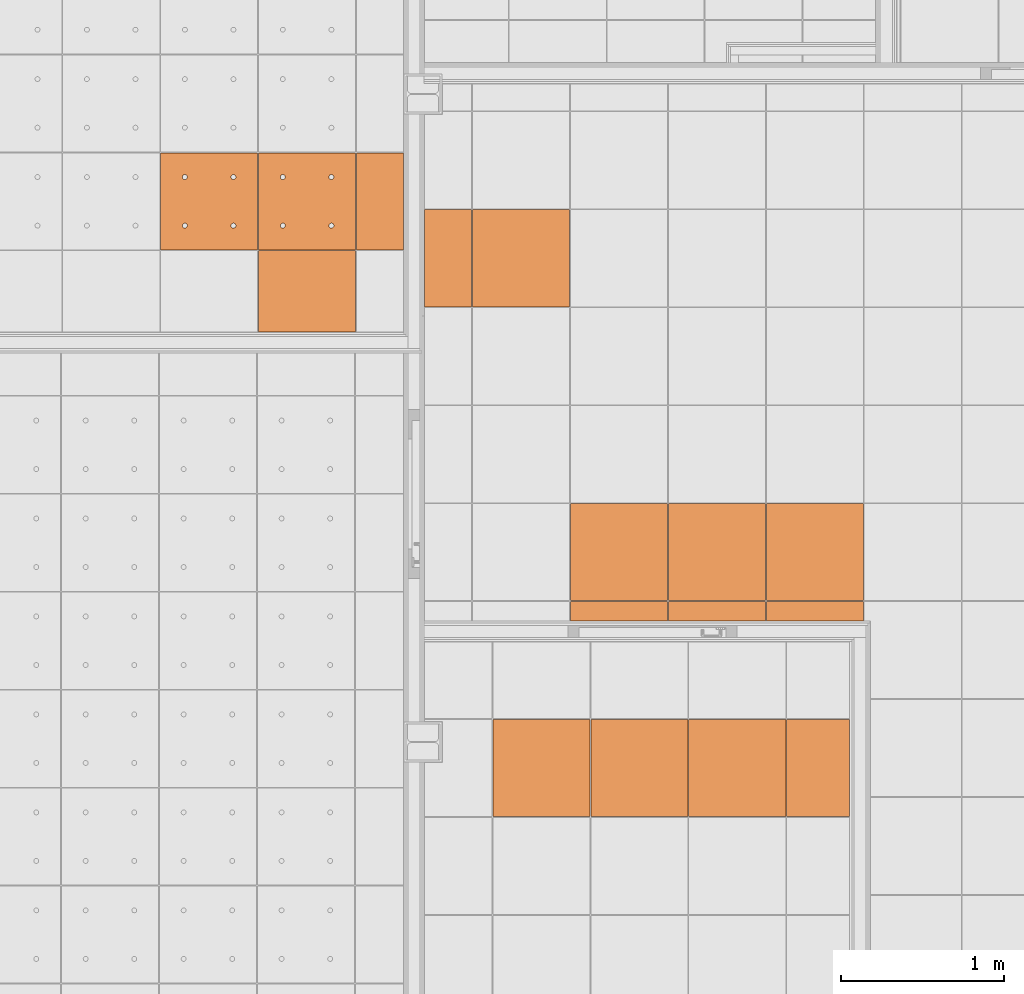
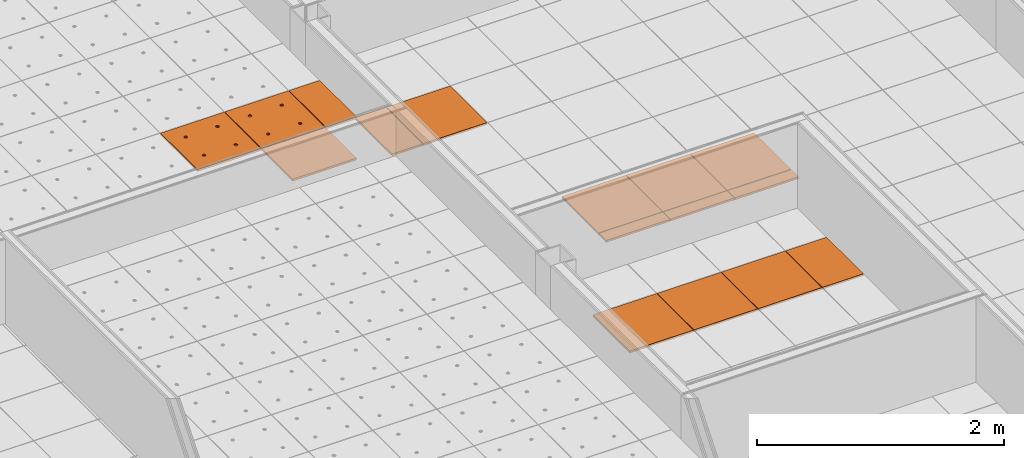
# One storey, part 280 of 338: 16 proxies, 3 elements without a shape of their own.
"""IFC2X3 building model written with IfcOpenShell, lengths in millimetres."""

from ifc_helpers import new_model, entity, si_unit, converted_unit, derived_unit, money_unit, direction, frame, origin_with_axes, place, context, subcontext, project, spatial, faceted_brep, source, transform, mapped, material, type_object, type_shapes, element, aggregate, save


model = new_model("IFC2X3")

# Units and contexts
model_context = context("Model", 3, precision=0.01, world=origin_with_axes(), true_north=direction((0.0, 1.0)))
plan_context = context("Plan", 3, precision=0.01, world=origin_with_axes(), true_north=direction((0.0, 1.0)))
body_context = subcontext(model_context, "Body", "Model", "MODEL_VIEW")
ifc_project = project(units=[si_unit("LENGTHUNIT", "METRE", prefix="MILLI"), si_unit("AREAUNIT", "SQUARE_METRE"), si_unit("VOLUMEUNIT", "CUBIC_METRE"), converted_unit("PLANEANGLEUNIT", "DEGREE", entity("IfcPlaneAngleMeasure", 0.0174532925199), si_unit("PLANEANGLEUNIT", "RADIAN"), dimensions=[0, 0, 0, 0, 0, 0, 0]), money_unit("EUR"), converted_unit("TIMEUNIT", "Year", entity("IfcTimeMeasure", 31556926.0), si_unit("TIMEUNIT", "SECOND"), dimensions=[0, 0, 1, 0, 0, 0, 0]), si_unit("MASSUNIT", "GRAM", prefix="KILO"), si_unit("THERMODYNAMICTEMPERATUREUNIT", "DEGREE_CELSIUS"), si_unit("LUMINOUSINTENSITYUNIT", "LUMEN"), si_unit("ENERGYUNIT", "JOULE", prefix="MEGA"), derived_unit("THERMALCONDUCTANCEUNIT", [(si_unit("POWERUNIT", "WATT"), 1), (si_unit("LENGTHUNIT", "METRE"), -1), (si_unit("THERMODYNAMICTEMPERATUREUNIT", "KELVIN"), -1)]), derived_unit("SPECIFICHEATCAPACITYUNIT", [(si_unit("ENERGYUNIT", "JOULE"), 1), (si_unit("MASSUNIT", "GRAM", prefix="KILO"), -1), (si_unit("THERMODYNAMICTEMPERATUREUNIT", "KELVIN"), -1)]), derived_unit("MASSDENSITYUNIT", [(si_unit("MASSUNIT", "GRAM", prefix="KILO"), 1), (si_unit("VOLUMEUNIT", "CUBIC_METRE"), -1)])], contexts=[model_context, plan_context])

# Site, building, storey
site_placement = place(None, origin_with_axes())
site = spatial("IfcSite", under=ifc_project, at=site_placement, Name="Fortuinstraat Woensdrecht", CompositionType="ELEMENT")
building_placement = place(site_placement, origin_with_axes())
building = spatial("IfcBuilding", under=site, at=building_placement, Name="IKC Fortuna", CompositionType="ELEMENT")
storey_placement = place(building_placement, origin_with_axes())
storey = spatial("IfcBuildingStorey", under=building, at=storey_placement, Name="00 begane grond", CompositionType="ELEMENT", Elevation=0.0)

# Covering, proxies
covering_type = type_object("IfcCoveringType", Name="Curtain Wall Type", PredefinedType="CEILING")
covering_1_placement = place(storey_placement, frame((20708.834778, 24017.7308613, 2810.0), z_axis=(0.0, 0.0, 1.0), x_axis=(1.0, 0.0, 0.0)))
covering_1 = element("IfcCovering", 1, at=covering_1_placement, inside=storey, type_object=covering_type, Name="45_Plafondafwerking_P02", PredefinedType="CEILING")
ifc_material = material(Name="Gipsplaat")
building_element_proxy_type_1 = type_object("IfcBuildingElementProxyType", Name="Distinct Panel 600 x 600 x 20", PredefinedType="NOTDEFINED")
shared_shape_1 = source(origin_with_axes(), body_context, "Body", "Brep", [
    faceted_brep([(2.49999999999, 2.5, -10.0), (597.5, 2.49999999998, -10.0), (597.5, 2.49999999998, 10.0), (2.49999999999, 2.5, 10.0), (2.50000000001, 597.5, -10.0), (597.5, 597.5, -10.0), (597.5, 597.5, 10.0), (2.50000000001, 597.5, 10.0)], [[[0, 1, 2, 3]], [[0, 4, 5, 1]], [[1, 5, 6, 2]], [[3, 2, 6, 7]], [[4, 0, 3, 7]], [[5, 4, 7, 6]]]),
])
proxy_1_placement = place(covering_1_placement, frame((585.699449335, -79.5657688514, 0.0), z_axis=(0.0, 0.0, 1.0), x_axis=(1.0, 0.0, 0.0)))
proxy_1 = element("IfcBuildingElementProxy", 2, at=proxy_1_placement, type_object=building_element_proxy_type_1, material=ifc_material, Name="__Panel-D", context=body_context, shape_type="MappedRepresentation", body=[
    mapped(shared_shape_1, transform((300.0, 300.0, 0.0), x_axis=(-1.0, 0.0, 0.0), y_axis=(0.0, -1.0, 0.0), z_axis=(0.0, 0.0, 1.0))),
])
proxy_2_placement = place(covering_1_placement, frame((1785.69944934, -79.5657688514, 0.0), z_axis=(0.0, 0.0, 1.0), x_axis=(1.0, 0.0, 0.0)))
proxy_2 = element("IfcBuildingElementProxy", 3, at=proxy_2_placement, type_object=building_element_proxy_type_1, material=ifc_material, Name="__Panel-D", context=body_context, shape_type="MappedRepresentation", body=[
    mapped(shared_shape_1, transform((300.0, 300.0, 0.0), x_axis=(-1.0, 0.0, 0.0), y_axis=(0.0, -1.0, 0.0), z_axis=(0.0, 0.0, 1.0))),
])
proxy_3_placement = place(covering_1_placement, frame((1185.69944934, -79.5657688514, 0.0), z_axis=(0.0, 0.0, 1.0), x_axis=(1.0, 0.0, 0.0)))
proxy_3 = element("IfcBuildingElementProxy", 4, at=proxy_3_placement, type_object=building_element_proxy_type_1, material=ifc_material, Name="__Panel-D", context=body_context, shape_type="MappedRepresentation", body=[
    mapped(shared_shape_1, transform((300.0, 300.0, 0.0), x_axis=(-1.0, 0.0, 0.0), y_axis=(0.0, -1.0, 0.0), z_axis=(0.0, 0.0, 1.0))),
])

covering_2_placement = place(storey_placement, frame((15059.4416165, 34009.703821, 3210.0), z_axis=(0.0, 0.0, 1.0), x_axis=(1.0, 0.0, 0.0)))
covering_2 = element("IfcCovering", 5, at=covering_2_placement, inside=storey, type_object=covering_type, Name="45_Plafondafwerking_P01", PredefinedType="CEILING")
shared_shape_2 = source(origin_with_axes(), body_context, "Body", "Brep", [
    faceted_brep([(2.49999999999, 2.49999999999, -10.0), (300.0, 2.49999999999, -10.0), (300.0, 2.49999999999, 10.0), (2.49999999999, 2.49999999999, 10.0), (2.49999999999, 300.0, -10.0), (2.49999999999, 597.5, -10.0), (300.0, 597.5, -10.0), (597.5, 597.5, -10.0), (597.5, 300.0, -10.0), (597.5, 2.49999999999, -10.0), (166.25, 450.06232995, -10.0), (165.79423259, 452.64711538, -10.0), (164.896546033, 455.11348892, -10.0), (163.58421608, 457.38651108, -10.0), (161.897117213, 459.39711721, -10.0), (159.886511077, 461.08421608, -10.0), (157.613488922, 462.39654603, -10.0), (155.147115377, 463.29423259, -10.0), (152.562329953, 463.75, -10.0), (149.937670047, 463.75, -10.0), (147.352884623, 463.29423259, -10.0), (144.886511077, 462.39654603, -10.0), (142.613488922, 461.08421608, -10.0), (140.602882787, 459.39711721, -10.0), (138.91578392, 457.38651108, -10.0), (137.603453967, 455.11348892, -10.0), (136.705767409, 452.64711538, -10.0), (136.25, 450.06232995, -10.0), (136.25, 448.75, -10.0), (136.25, 447.43767005, -10.0), (136.705767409, 444.85288462, -10.0), (137.603453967, 442.38651108, -10.0), (138.91578392, 440.11348892, -10.0), (140.602882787, 438.10288279, -10.0), (142.613488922, 436.41578392, -10.0), (144.886511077, 435.10345397, -10.0), (147.352884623, 434.20576741, -10.0), (149.937670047, 433.75, -10.0), (152.562329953, 433.75, -10.0), (155.147115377, 434.20576741, -10.0), (157.613488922, 435.10345397, -10.0), (159.886511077, 436.41578392, -10.0), (161.897117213, 438.10288279, -10.0), (163.58421608, 440.11348892, -10.0), (164.896546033, 442.38651108, -10.0), (165.79423259, 444.85288462, -10.0), (166.25, 447.43767005, -10.0), (463.75, 450.06232995, -10.0), (463.29423259, 452.64711538, -10.0), (462.396546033, 455.11348892, -10.0), (461.08421608, 457.38651108, -10.0), (459.397117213, 459.39711721, -10.0), (457.386511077, 461.08421608, -10.0), (455.113488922, 462.39654603, -10.0), (452.647115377, 463.29423259, -10.0), (450.062329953, 463.75, -10.0), (447.437670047, 463.75, -10.0), (444.852884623, 463.29423259, -10.0), (442.386511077, 462.39654603, -10.0), (440.113488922, 461.08421608, -10.0), (438.102882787, 459.39711721, -10.0), (436.41578392, 457.38651108, -10.0), (435.103453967, 455.11348892, -10.0), (434.205767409, 452.64711538, -10.0), (433.75, 450.06232995, -10.0), (433.75, 448.75, -10.0), (433.75, 447.43767005, -10.0), (434.205767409, 444.85288462, -10.0), (435.103453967, 442.38651108, -10.0), (436.41578392, 440.11348892, -10.0), (438.102882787, 438.10288279, -10.0), (440.113488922, 436.41578392, -10.0), (442.386511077, 435.10345397, -10.0), (444.852884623, 434.20576741, -10.0), (447.437670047, 433.75, -10.0), (450.062329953, 433.75, -10.0), (452.647115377, 434.20576741, -10.0), (455.113488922, 435.10345397, -10.0), (457.386511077, 436.41578392, -10.0), (459.397117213, 438.10288279, -10.0), (461.08421608, 440.11348892, -10.0), (462.396546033, 442.38651108, -10.0), (463.29423259, 444.85288462, -10.0), (463.75, 447.43767005, -10.0), (463.75, 152.56232995, -10.0), (463.29423259, 155.14711538, -10.0), (462.396546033, 157.61348892, -10.0), (461.08421608, 159.88651108, -10.0), (459.397117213, 161.89711721, -10.0), (457.386511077, 163.58421608, -10.0), (455.113488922, 164.89654603, -10.0), (452.647115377, 165.79423259, -10.0), (450.062329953, 166.25, -10.0), (447.437670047, 166.25, -10.0), (444.852884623, 165.79423259, -10.0), (442.386511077, 164.89654603, -10.0), (440.113488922, 163.58421608, -10.0), (438.102882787, 161.89711721, -10.0), (436.41578392, 159.88651108, -10.0), (435.103453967, 157.61348892, -10.0), (434.205767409, 155.14711538, -10.0), (433.75, 152.56232995, -10.0), (433.75, 151.25, -10.0), (433.75, 149.93767005, -10.0), (434.205767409, 147.35288462, -10.0), (435.103453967, 144.88651108, -10.0), (436.41578392, 142.61348892, -10.0), (438.102882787, 140.60288279, -10.0), (440.113488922, 138.91578392, -10.0), (442.386511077, 137.60345397, -10.0), (444.852884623, 136.70576741, -10.0), (447.437670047, 136.25, -10.0), (450.062329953, 136.25, -10.0), (452.647115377, 136.70576741, -10.0), (455.113488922, 137.60345397, -10.0), (457.386511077, 138.91578392, -10.0), (459.397117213, 140.60288279, -10.0), (461.08421608, 142.61348892, -10.0), (462.396546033, 144.88651108, -10.0), (463.29423259, 147.35288462, -10.0), (463.75, 149.93767005, -10.0), (166.25, 152.56232995, -10.0), (165.79423259, 155.14711538, -10.0), (164.896546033, 157.61348892, -10.0), (163.58421608, 159.88651108, -10.0), (161.897117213, 161.89711721, -10.0), (159.886511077, 163.58421608, -10.0), (157.613488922, 164.89654603, -10.0), (155.147115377, 165.79423259, -10.0), (152.562329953, 166.25, -10.0), (149.937670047, 166.25, -10.0), (147.352884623, 165.79423259, -10.0), (144.886511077, 164.89654603, -10.0), (142.613488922, 163.58421608, -10.0), (140.602882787, 161.89711721, -10.0), (138.91578392, 159.88651108, -10.0), (137.603453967, 157.61348892, -10.0), (136.705767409, 155.14711538, -10.0), (136.25, 152.56232995, -10.0), (136.25, 151.25, -10.0), (136.25, 149.93767005, -10.0), (136.705767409, 147.35288462, -10.0), (137.603453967, 144.88651108, -10.0), (138.91578392, 142.61348892, -10.0), (140.602882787, 140.60288279, -10.0), (142.613488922, 138.91578392, -10.0), (144.886511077, 137.60345397, -10.0), (147.352884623, 136.70576741, -10.0), (149.937670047, 136.25, -10.0), (152.562329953, 136.25, -10.0), (155.147115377, 136.70576741, -10.0), (157.613488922, 137.60345397, -10.0), (159.886511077, 138.91578392, -10.0), (161.897117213, 140.60288279, -10.0), (163.58421608, 142.61348892, -10.0), (164.896546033, 144.88651108, -10.0), (165.79423259, 147.35288462, -10.0), (166.25, 149.93767005, -10.0), (597.5, 2.49999999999, 10.0), (597.5, 300.0, 10.0), (597.5, 597.5, 10.0), (300.0, 597.5, 10.0), (2.49999999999, 597.5, 10.0), (2.49999999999, 300.0, 10.0), (166.25, 450.06232995, 10.0), (166.25, 447.43767005, 10.0), (165.79423259, 444.85288462, 10.0), (164.896546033, 442.38651108, 10.0), (163.58421608, 440.11348892, 10.0), (161.897117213, 438.10288279, 10.0), (159.886511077, 436.41578392, 10.0), (157.613488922, 435.10345397, 10.0), (155.147115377, 434.20576741, 10.0), (152.562329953, 433.75, 10.0), (149.937670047, 433.75, 10.0), (147.352884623, 434.20576741, 10.0), (144.886511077, 435.10345397, 10.0), (142.613488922, 436.41578392, 10.0), (140.602882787, 438.10288279, 10.0), (138.91578392, 440.11348892, 10.0), (137.603453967, 442.38651108, 10.0), (136.705767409, 444.85288462, 10.0), (136.25, 447.43767005, 10.0), (136.25, 448.75, 10.0), (136.25, 450.06232995, 10.0), (136.705767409, 452.64711538, 10.0), (137.603453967, 455.11348892, 10.0), (138.91578392, 457.38651108, 10.0), (140.602882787, 459.39711721, 10.0), (142.613488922, 461.08421608, 10.0), (144.886511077, 462.39654603, 10.0), (147.352884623, 463.29423259, 10.0), (149.937670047, 463.75, 10.0), (152.562329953, 463.75, 10.0), (155.147115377, 463.29423259, 10.0), (157.613488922, 462.39654603, 10.0), (159.886511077, 461.08421608, 10.0), (161.897117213, 459.39711721, 10.0), (163.58421608, 457.38651108, 10.0), (164.896546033, 455.11348892, 10.0), (165.79423259, 452.64711538, 10.0), (463.75, 450.06232995, 10.0), (463.75, 447.43767005, 10.0), (463.29423259, 444.85288462, 10.0), (462.396546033, 442.38651108, 10.0), (461.08421608, 440.11348892, 10.0), (459.397117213, 438.10288279, 10.0), (457.386511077, 436.41578392, 10.0), (455.113488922, 435.10345397, 10.0), (452.647115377, 434.20576741, 10.0), (450.062329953, 433.75, 10.0), (447.437670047, 433.75, 10.0), (444.852884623, 434.20576741, 10.0), (442.386511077, 435.10345397, 10.0), (440.113488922, 436.41578392, 10.0), (438.102882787, 438.10288279, 10.0), (436.41578392, 440.11348892, 10.0), (435.103453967, 442.38651108, 10.0), (434.205767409, 444.85288462, 10.0), (433.75, 447.43767005, 10.0), (433.75, 448.75, 10.0), (433.75, 450.06232995, 10.0), (434.205767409, 452.64711538, 10.0), (435.103453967, 455.11348892, 10.0), (436.41578392, 457.38651108, 10.0), (438.102882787, 459.39711721, 10.0), (440.113488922, 461.08421608, 10.0), (442.386511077, 462.39654603, 10.0), (444.852884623, 463.29423259, 10.0), (447.437670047, 463.75, 10.0), (450.062329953, 463.75, 10.0), (452.647115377, 463.29423259, 10.0), (455.113488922, 462.39654603, 10.0), (457.386511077, 461.08421608, 10.0), (459.397117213, 459.39711721, 10.0), (461.08421608, 457.38651108, 10.0), (462.396546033, 455.11348892, 10.0), (463.29423259, 452.64711538, 10.0), (463.75, 152.56232995, 10.0), (463.75, 149.93767005, 10.0), (463.29423259, 147.35288462, 10.0), (462.396546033, 144.88651108, 10.0), (461.08421608, 142.61348892, 10.0), (459.397117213, 140.60288279, 10.0), (457.386511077, 138.91578392, 10.0), (455.113488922, 137.60345397, 10.0), (452.647115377, 136.70576741, 10.0), (450.062329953, 136.25, 10.0), (447.437670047, 136.25, 10.0), (444.852884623, 136.70576741, 10.0), (442.386511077, 137.60345397, 10.0), (440.113488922, 138.91578392, 10.0), (438.102882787, 140.60288279, 10.0), (436.41578392, 142.61348892, 10.0), (435.103453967, 144.88651108, 10.0), (434.205767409, 147.35288462, 10.0), (433.75, 149.93767005, 10.0), (433.75, 151.25, 10.0), (433.75, 152.56232995, 10.0), (434.205767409, 155.14711538, 10.0), (435.103453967, 157.61348892, 10.0), (436.41578392, 159.88651108, 10.0), (438.102882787, 161.89711721, 10.0), (440.113488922, 163.58421608, 10.0), (442.386511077, 164.89654603, 10.0), (444.852884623, 165.79423259, 10.0), (447.437670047, 166.25, 10.0), (450.062329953, 166.25, 10.0), (452.647115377, 165.79423259, 10.0), (455.113488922, 164.89654603, 10.0), (457.386511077, 163.58421608, 10.0), (459.397117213, 161.89711721, 10.0), (461.08421608, 159.88651108, 10.0), (462.396546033, 157.61348892, 10.0), (463.29423259, 155.14711538, 10.0), (166.25, 152.56232995, 10.0), (166.25, 149.93767005, 10.0), (165.79423259, 147.35288462, 10.0), (164.896546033, 144.88651108, 10.0), (163.58421608, 142.61348892, 10.0), (161.897117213, 140.60288279, 10.0), (159.886511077, 138.91578392, 10.0), (157.613488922, 137.60345397, 10.0), (155.147115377, 136.70576741, 10.0), (152.562329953, 136.25, 10.0), (149.937670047, 136.25, 10.0), (147.352884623, 136.70576741, 10.0), (144.886511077, 137.60345397, 10.0), (142.613488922, 138.91578392, 10.0), (140.602882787, 140.60288279, 10.0), (138.91578392, 142.61348892, 10.0), (137.603453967, 144.88651108, 10.0), (136.705767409, 147.35288462, 10.0), (136.25, 149.93767005, 10.0), (136.25, 151.25, 10.0), (136.25, 152.56232995, 10.0), (136.705767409, 155.14711538, 10.0), (137.603453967, 157.61348892, 10.0), (138.91578392, 159.88651108, 10.0), (140.602882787, 161.89711721, 10.0), (142.613488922, 163.58421608, 10.0), (144.886511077, 164.89654603, 10.0), (147.352884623, 165.79423259, 10.0), (149.937670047, 166.25, 10.0), (152.562329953, 166.25, 10.0), (155.147115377, 165.79423259, 10.0), (157.613488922, 164.89654603, 10.0), (159.886511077, 163.58421608, 10.0), (161.897117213, 161.89711721, 10.0), (163.58421608, 159.88651108, 10.0), (164.896546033, 157.61348892, 10.0), (165.79423259, 155.14711538, 10.0)], [[[0, 1, 2, 3]], [[0, 4, 5, 6, 7, 8, 9, 1], [10, 11, 12, 13, 14, 15, 16, 17, 18, 19, 20, 21, 22, 23, 24, 25, 26, 27, 28, 29, 30, 31, 32, 33, 34, 35, 36, 37, 38, 39, 40, 41, 42, 43, 44, 45, 46], [47, 48, 49, 50, 51, 52, 53, 54, 55, 56, 57, 58, 59, 60, 61, 62, 63, 64, 65, 66, 67, 68, 69, 70, 71, 72, 73, 74, 75, 76, 77, 78, 79, 80, 81, 82, 83], [84, 85, 86, 87, 88, 89, 90, 91, 92, 93, 94, 95, 96, 97, 98, 99, 100, 101, 102, 103, 104, 105, 106, 107, 108, 109, 110, 111, 112, 113, 114, 115, 116, 117, 118, 119, 120], [121, 122, 123, 124, 125, 126, 127, 128, 129, 130, 131, 132, 133, 134, 135, 136, 137, 138, 139, 140, 141, 142, 143, 144, 145, 146, 147, 148, 149, 150, 151, 152, 153, 154, 155, 156, 157]], [[1, 9, 158, 2]], [[3, 2, 158, 159, 160, 161, 162, 163], [164, 165, 166, 167, 168, 169, 170, 171, 172, 173, 174, 175, 176, 177, 178, 179, 180, 181, 182, 183, 184, 185, 186, 187, 188, 189, 190, 191, 192, 193, 194, 195, 196, 197, 198, 199, 200], [201, 202, 203, 204, 205, 206, 207, 208, 209, 210, 211, 212, 213, 214, 215, 216, 217, 218, 219, 220, 221, 222, 223, 224, 225, 226, 227, 228, 229, 230, 231, 232, 233, 234, 235, 236, 237], [238, 239, 240, 241, 242, 243, 244, 245, 246, 247, 248, 249, 250, 251, 252, 253, 254, 255, 256, 257, 258, 259, 260, 261, 262, 263, 264, 265, 266, 267, 268, 269, 270, 271, 272, 273, 274], [275, 276, 277, 278, 279, 280, 281, 282, 283, 284, 285, 286, 287, 288, 289, 290, 291, 292, 293, 294, 295, 296, 297, 298, 299, 300, 301, 302, 303, 304, 305, 306, 307, 308, 309, 310, 311]], [[4, 0, 3, 163]], [[5, 4, 163, 162]], [[6, 5, 162, 161]], [[7, 6, 161, 160]], [[8, 7, 160, 159]], [[9, 8, 159, 158]], [[11, 10, 164, 200]], [[12, 11, 200, 199]], [[13, 12, 199, 198]], [[14, 13, 198, 197]], [[15, 14, 197, 196]], [[16, 15, 196, 195]], [[17, 16, 195, 194]], [[18, 17, 194, 193]], [[19, 18, 193, 192]], [[20, 19, 192, 191]], [[21, 20, 191, 190]], [[22, 21, 190, 189]], [[23, 22, 189, 188]], [[24, 23, 188, 187]], [[25, 24, 187, 186]], [[26, 25, 186, 185]], [[27, 26, 185, 184]], [[28, 27, 184, 183]], [[29, 28, 183, 182]], [[30, 29, 182, 181]], [[31, 30, 181, 180]], [[32, 31, 180, 179]], [[33, 32, 179, 178]], [[34, 33, 178, 177]], [[35, 34, 177, 176]], [[36, 35, 176, 175]], [[37, 36, 175, 174]], [[38, 37, 174, 173]], [[39, 38, 173, 172]], [[40, 39, 172, 171]], [[41, 40, 171, 170]], [[42, 41, 170, 169]], [[43, 42, 169, 168]], [[44, 43, 168, 167]], [[45, 44, 167, 166]], [[46, 45, 166, 165]], [[10, 46, 165, 164]], [[48, 47, 201, 237]], [[49, 48, 237, 236]], [[50, 49, 236, 235]], [[51, 50, 235, 234]], [[52, 51, 234, 233]], [[53, 52, 233, 232]], [[54, 53, 232, 231]], [[55, 54, 231, 230]], [[56, 55, 230, 229]], [[57, 56, 229, 228]], [[58, 57, 228, 227]], [[59, 58, 227, 226]], [[60, 59, 226, 225]], [[61, 60, 225, 224]], [[62, 61, 224, 223]], [[63, 62, 223, 222]], [[64, 63, 222, 221]], [[65, 64, 221, 220]], [[66, 65, 220, 219]], [[67, 66, 219, 218]], [[68, 67, 218, 217]], [[69, 68, 217, 216]], [[70, 69, 216, 215]], [[71, 70, 215, 214]], [[72, 71, 214, 213]], [[73, 72, 213, 212]], [[74, 73, 212, 211]], [[75, 74, 211, 210]], [[76, 75, 210, 209]], [[77, 76, 209, 208]], [[78, 77, 208, 207]], [[79, 78, 207, 206]], [[80, 79, 206, 205]], [[81, 80, 205, 204]], [[82, 81, 204, 203]], [[83, 82, 203, 202]], [[47, 83, 202, 201]], [[85, 84, 238, 274]], [[86, 85, 274, 273]], [[87, 86, 273, 272]], [[88, 87, 272, 271]], [[89, 88, 271, 270]], [[90, 89, 270, 269]], [[91, 90, 269, 268]], [[92, 91, 268, 267]], [[93, 92, 267, 266]], [[94, 93, 266, 265]], [[95, 94, 265, 264]], [[96, 95, 264, 263]], [[97, 96, 263, 262]], [[98, 97, 262, 261]], [[99, 98, 261, 260]], [[100, 99, 260, 259]], [[101, 100, 259, 258]], [[102, 101, 258, 257]], [[103, 102, 257, 256]], [[104, 103, 256, 255]], [[105, 104, 255, 254]], [[106, 105, 254, 253]], [[107, 106, 253, 252]], [[108, 107, 252, 251]], [[109, 108, 251, 250]], [[110, 109, 250, 249]], [[111, 110, 249, 248]], [[112, 111, 248, 247]], [[113, 112, 247, 246]], [[114, 113, 246, 245]], [[115, 114, 245, 244]], [[116, 115, 244, 243]], [[117, 116, 243, 242]], [[118, 117, 242, 241]], [[119, 118, 241, 240]], [[120, 119, 240, 239]], [[84, 120, 239, 238]], [[122, 121, 275, 311]], [[123, 122, 311, 310]], [[124, 123, 310, 309]], [[125, 124, 309, 308]], [[126, 125, 308, 307]], [[127, 126, 307, 306]], [[128, 127, 306, 305]], [[129, 128, 305, 304]], [[130, 129, 304, 303]], [[131, 130, 303, 302]], [[132, 131, 302, 301]], [[133, 132, 301, 300]], [[134, 133, 300, 299]], [[135, 134, 299, 298]], [[136, 135, 298, 297]], [[137, 136, 297, 296]], [[138, 137, 296, 295]], [[139, 138, 295, 294]], [[140, 139, 294, 293]], [[141, 140, 293, 292]], [[142, 141, 292, 291]], [[143, 142, 291, 290]], [[144, 143, 290, 289]], [[145, 144, 289, 288]], [[146, 145, 288, 287]], [[147, 146, 287, 286]], [[148, 147, 286, 285]], [[149, 148, 285, 284]], [[150, 149, 284, 283]], [[151, 150, 283, 282]], [[152, 151, 282, 281]], [[153, 152, 281, 280]], [[154, 153, 280, 279]], [[155, 154, 279, 278]], [[156, 155, 278, 277]], [[157, 156, 277, 276]], [[121, 157, 276, 275]]]),
])
proxy_4_placement = place(covering_2_placement, frame((4200.0, -6600.0, 0.0), z_axis=(0.0, 0.0, 1.0), x_axis=(1.0, 0.0, 0.0)))
proxy_4 = element("IfcBuildingElementProxy", 6, at=proxy_4_placement, type_object=building_element_proxy_type_1, material=ifc_material, Name="__Panel-D", context=body_context, shape_type="MappedRepresentation", body=[
    mapped(shared_shape_2, transform((300.0, 300.0, 0.0), x_axis=(-1.0, 0.0, 0.0), y_axis=(0.0, -1.0, 0.0), z_axis=(0.0, 0.0, 1.0))),
])
proxy_5_placement = place(covering_2_placement, frame((4800.0, -6600.0, 0.0), z_axis=(0.0, 0.0, 1.0), x_axis=(1.0, 0.0, 0.0)))
proxy_5 = element("IfcBuildingElementProxy", 7, at=proxy_5_placement, type_object=building_element_proxy_type_1, material=ifc_material, Name="__Panel-D", context=body_context, shape_type="MappedRepresentation", body=[
    mapped(shared_shape_2, transform((300.0, 300.0, 0.0), x_axis=(-1.0, 0.0, 0.0), y_axis=(0.0, -1.0, 0.0), z_axis=(0.0, 0.0, 1.0))),
])
building_element_proxy_type_2 = type_object("IfcBuildingElementProxyType", Name="Main Panel 292 x 600 x 20", PredefinedType="NOTDEFINED")
shared_shape_3 = source(origin_with_axes(), body_context, "Body", "Brep", [
    faceted_brep([(310.0065893, 2.5, -10.0), (597.5, 2.49999999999, -10.0), (597.5, 2.49999999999, 10.0), (310.0065893, 2.5, 10.0), (310.0065893, 597.5, -10.0), (597.5, 597.5, -10.0), (597.5, 597.5, 10.0), (310.0065893, 597.5, 10.0)], [[[0, 1, 2, 3]], [[0, 4, 5, 1]], [[1, 5, 6, 2]], [[3, 2, 6, 7]], [[4, 0, 3, 7]], [[5, 4, 7, 6]]]),
])
type_shapes(building_element_proxy_type_2, [shared_shape_3])
proxy_6_placement = place(covering_2_placement, frame((5246.24670484, -6600.0, 0.0), z_axis=(0.0, 0.0, 1.0), x_axis=(1.0, 0.0, 0.0)))
proxy_6 = element("IfcBuildingElementProxy", 8, at=proxy_6_placement, type_object=building_element_proxy_type_2, material=ifc_material, Name="__Panel-D", context=body_context, shape_type="MappedRepresentation", body=[
    mapped(shared_shape_3, transform((453.753295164, 300.0, 0.0), x_axis=(-1.0, 0.0, 0.0), y_axis=(0.0, -1.0, 0.0), z_axis=(0.0, 0.0, 1.0))),
])
building_element_proxy_type_3 = type_object("IfcBuildingElementProxyType", Name="Main Panel 600 x 503 x 20", PredefinedType="NOTDEFINED")
shared_shape_4 = source(origin_with_axes(), body_context, "Body", "Brep", [
    faceted_brep([(2.49999999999, 2.49999752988, -10.0), (597.5, 2.49999752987, -10.0), (597.5, 2.49999752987, 10.0), (2.49999999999, 2.49999752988, 10.0), (2.5, 500.092828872, -10.0), (597.5, 500.092828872, -10.0), (597.5, 500.092828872, 10.0), (2.5, 500.092828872, 10.0)], [[[0, 1, 2, 3]], [[0, 4, 5, 1]], [[1, 5, 6, 2]], [[3, 2, 6, 7]], [[4, 0, 3, 7]], [[5, 4, 7, 6]]]),
])
type_shapes(building_element_proxy_type_3, [shared_shape_4])
proxy_7_placement = place(covering_2_placement, frame((4800.0, -7151.29641444, 0.0), z_axis=(0.0, 0.0, 1.0), x_axis=(1.0, 0.0, 0.0)))
proxy_7 = element("IfcBuildingElementProxy", 9, at=proxy_7_placement, type_object=building_element_proxy_type_3, material=ifc_material, Name="__Panel-D", context=body_context, shape_type="MappedRepresentation", body=[
    mapped(shared_shape_4, transform((300.0, 251.296414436, 0.0), x_axis=(-1.0, 0.0, 0.0), y_axis=(0.0, -1.0, 0.0), z_axis=(0.0, 0.0, 1.0))),
])
aggregate(covering_2, [proxy_6, proxy_4, proxy_5, proxy_7])

covering_3_placement = place(storey_placement, frame((21169.4446171, 27661.0834994, 3010.0), z_axis=(0.0, 0.0, 1.0), x_axis=(1.0, 0.0, 0.0)))
covering_3 = element("IfcCovering", 10, at=covering_3_placement, inside=storey, type_object=covering_type, Name="45_Plafondafwerking_P04", PredefinedType="CEILING")
shared_shape_5 = source(origin_with_axes(), body_context, "Body", "Brep", [
    faceted_brep([(-2.49999999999, 2.5, -10.0), (-2.49999999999, 2.5, 10.0), (-597.5, 2.49999999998, 10.0), (-597.5, 2.49999999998, -10.0), (-2.50000000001, 597.5, -10.0), (-2.50000000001, 597.5, 10.0), (-597.5, 597.5, 10.0), (-597.5, 597.5, -10.0)], [[[0, 1, 2, 3]], [[4, 5, 1, 0]], [[1, 5, 6, 2]], [[3, 2, 6, 7]], [[0, 3, 7, 4]], [[7, 6, 5, 4]]]),
])
proxy_8_placement = place(covering_3_placement, frame((1800.0, -2400.0, 0.0), z_axis=(0.0, 0.0, 1.0), x_axis=(1.0, 0.0, 0.0)))
proxy_8 = element("IfcBuildingElementProxy", 11, at=proxy_8_placement, type_object=building_element_proxy_type_1, material=ifc_material, Name="__Panel-D", context=body_context, shape_type="MappedRepresentation", body=[
    mapped(shared_shape_5, transform((-300.0, 300.0, 0.0), x_axis=(-1.0, 0.0, 0.0), y_axis=(0.0, -1.0, 0.0), z_axis=(0.0, 0.0, 1.0))),
])
proxy_9_placement = place(covering_3_placement, frame((0.0, -600.0, 0.0), z_axis=(0.0, 0.0, 1.0), x_axis=(1.0, 0.0, 0.0)))
proxy_9 = element("IfcBuildingElementProxy", 12, at=proxy_9_placement, type_object=building_element_proxy_type_1, material=ifc_material, Name="__Panel-D", context=body_context, shape_type="MappedRepresentation", body=[
    mapped(shared_shape_5, transform((-300.0, 300.0, 0.0), x_axis=(-1.0, 0.0, 0.0), y_axis=(0.0, -1.0, 0.0), z_axis=(0.0, 0.0, 1.0))),
])
building_element_proxy_type_4 = type_object("IfcBuildingElementProxyType", Name="Distinct Panel 293 x 600 x 20", PredefinedType="NOTDEFINED")
shared_shape_6 = source(origin_with_axes(), body_context, "Body", "Brep", [
    faceted_brep([(-309.99037086, 2.5, -10.0), (-309.99037086, 2.5, 10.0), (-597.5, 2.49999999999, 10.0), (-597.5, 2.49999999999, -10.0), (-309.99037086, 597.5, -10.0), (-309.99037086, 597.5, 10.0), (-597.5, 597.5, 10.0), (-597.5, 597.5, -10.0)], [[[0, 1, 2, 3]], [[4, 5, 1, 0]], [[1, 5, 6, 2]], [[3, 2, 6, 7]], [[0, 3, 7, 4]], [[7, 6, 5, 4]]]),
])
type_shapes(building_element_proxy_type_4, [shared_shape_6])
proxy_10_placement = place(covering_3_placement, frame((-446.254815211, -600.0, 0.0), z_axis=(0.0, 0.0, 1.0), x_axis=(1.0, 0.0, 0.0)))
proxy_10 = element("IfcBuildingElementProxy", 13, at=proxy_10_placement, type_object=building_element_proxy_type_4, material=ifc_material, Name="__Panel-D", context=body_context, shape_type="MappedRepresentation", body=[
    mapped(shared_shape_6, transform((-453.745184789, 300.0, 0.0), x_axis=(-1.0, 0.0, 0.0), y_axis=(0.0, -1.0, 0.0), z_axis=(0.0, 0.0, 1.0))),
])
building_element_proxy_type_5 = type_object("IfcBuildingElementProxyType", Name="Distinct Panel 600 x 123 x 20", PredefinedType="NOTDEFINED")
shared_shape_7 = source(origin_with_axes(), body_context, "Body", "Brep", [
    faceted_brep([(-2.5, 2.50000154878, -10.0), (-2.5, 2.50000154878, 10.0), (-597.5, 2.50000154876, 10.0), (-597.5, 2.50000154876, -10.0), (-2.5, 120.392418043, -10.0), (-2.5, 120.392418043, 10.0), (-597.5, 120.392418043, 10.0), (-597.5, 120.392418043, -10.0)], [[[0, 1, 2, 3]], [[4, 5, 1, 0]], [[1, 5, 6, 2]], [[3, 2, 6, 7]], [[0, 3, 7, 4]], [[7, 6, 5, 4]]]),
])
type_shapes(building_element_proxy_type_5, [shared_shape_7])
proxy_11_placement = place(covering_3_placement, frame((1800.0, -2761.44620902, 0.0), z_axis=(0.0, 0.0, 1.0), x_axis=(1.0, 0.0, 0.0)))
proxy_11 = element("IfcBuildingElementProxy", 14, at=proxy_11_placement, type_object=building_element_proxy_type_5, material=ifc_material, Name="__Panel-D", context=body_context, shape_type="MappedRepresentation", body=[
    mapped(shared_shape_7, transform((-300.0, 61.4462090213, 0.0), x_axis=(-1.0, 0.0, 0.0), y_axis=(0.0, -1.0, 0.0), z_axis=(0.0, 0.0, 1.0))),
])
proxy_12_placement = place(covering_3_placement, frame((600.0, -2761.44620902, 0.0), z_axis=(0.0, 0.0, 1.0), x_axis=(1.0, 0.0, 0.0)))
proxy_12 = element("IfcBuildingElementProxy", 15, at=proxy_12_placement, type_object=building_element_proxy_type_5, material=ifc_material, Name="__Panel-D", context=body_context, shape_type="MappedRepresentation", body=[
    mapped(shared_shape_7, transform((-300.0, 61.4462090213, 0.0), x_axis=(-1.0, 0.0, 0.0), y_axis=(0.0, -1.0, 0.0), z_axis=(0.0, 0.0, 1.0))),
])
proxy_13_placement = place(covering_3_placement, frame((1200.0, -2761.44620902, 0.0), z_axis=(0.0, 0.0, 1.0), x_axis=(1.0, 0.0, 0.0)))
proxy_13 = element("IfcBuildingElementProxy", 16, at=proxy_13_placement, type_object=building_element_proxy_type_5, material=ifc_material, Name="__Panel-D", context=body_context, shape_type="MappedRepresentation", body=[
    mapped(shared_shape_7, transform((-300.0, 61.4462090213, 0.0), x_axis=(-1.0, 0.0, 0.0), y_axis=(0.0, -1.0, 0.0), z_axis=(0.0, 0.0, 1.0))),
])
shared_shape_8 = source(origin_with_axes(), body_context, "Body", "Brep", [
    faceted_brep([(-2.50000188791, 2.50000518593, -10.0), (-2.50000188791, 2.50000518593, 10.0), (-597.499994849, 2.50000192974, 10.0), (-597.499994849, 2.50000192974, -10.0), (-2.50000514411, 597.499998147, -10.0), (-2.50000514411, 597.499998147, 10.0), (-597.499998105, 597.499994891, 10.0), (-597.499998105, 597.499994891, -10.0)], [[[0, 1, 2, 3]], [[4, 5, 1, 0]], [[1, 5, 6, 2]], [[3, 2, 6, 7]], [[0, 3, 7, 4]], [[7, 6, 5, 4]]]),
])
proxy_14_placement = place(covering_3_placement, frame((1200.0, -2400.0, 0.0), z_axis=(0.0, 0.0, 1.0), x_axis=(1.0, 0.0, 0.0)))
proxy_14 = element("IfcBuildingElementProxy", 17, at=proxy_14_placement, type_object=building_element_proxy_type_1, material=ifc_material, Name="__Panel-D", context=body_context, shape_type="MappedRepresentation", body=[
    mapped(shared_shape_8, transform((-300.0, 300.0, 0.0), x_axis=(-1.0, 0.0, 0.0), y_axis=(0.0, -1.0, 0.0), z_axis=(0.0, 0.0, 1.0))),
])
shared_shape_9 = source(origin_with_axes(), body_context, "Body", "Brep", [
    faceted_brep([(-2.5000069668, 2.4999963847, -10.0), (-2.5000069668, 2.4999963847, 10.0), (-597.499995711, 2.50000275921, 10.0), (-597.499995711, 2.50000275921, -10.0), (-2.50000214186, 597.499967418, -10.0), (-2.50000214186, 597.499967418, 10.0), (-597.499990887, 597.499973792, 10.0), (-597.499990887, 597.499973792, -10.0)], [[[0, 1, 2, 3]], [[4, 5, 1, 0]], [[1, 5, 6, 2]], [[3, 2, 6, 7]], [[0, 3, 7, 4]], [[7, 6, 5, 4]]]),
])
type_shapes(building_element_proxy_type_1, [shared_shape_1, shared_shape_2, shared_shape_5, shared_shape_8, shared_shape_9])
proxy_15_placement = place(covering_3_placement, frame((600.0, -2400.0, 0.0), z_axis=(0.0, 0.0, 1.0), x_axis=(1.0, 0.0, 0.0)))
proxy_15 = element("IfcBuildingElementProxy", 18, at=proxy_15_placement, type_object=building_element_proxy_type_1, material=ifc_material, Name="__Panel-D", context=body_context, shape_type="MappedRepresentation", body=[
    mapped(shared_shape_9, transform((-300.0, 300.0, 0.0), x_axis=(-1.0, 0.0, 0.0), y_axis=(0.0, -1.0, 0.0), z_axis=(0.0, 0.0, 1.0))),
])
aggregate(covering_3, [proxy_11, proxy_12, proxy_13, proxy_8, proxy_14, proxy_10, proxy_9, proxy_15])

# Proxy
building_element_proxy_type_6 = type_object("IfcBuildingElementProxyType", Name="Distinct Panel 388 x 600 x 20", PredefinedType="NOTDEFINED")
shared_shape_10 = source(origin_with_axes(), body_context, "Body", "Brep", [
    faceted_brep([(214.099232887, 2.5, -10.0), (597.5, 2.49999999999, -10.0), (597.5, 2.49999999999, 10.0), (214.099232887, 2.5, 10.0), (214.099232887, 597.5, -10.0), (597.5, 597.5, -10.0), (597.5, 597.5, 10.0), (214.099232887, 597.5, 10.0)], [[[0, 1, 2, 3]], [[0, 4, 5, 1]], [[1, 5, 6, 2]], [[3, 2, 6, 7]], [[4, 0, 3, 7]], [[5, 4, 7, 6]]]),
])
type_shapes(building_element_proxy_type_6, [shared_shape_10])
proxy_16_placement = place(covering_1_placement, frame((2279.89983008, -79.5657688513, 0.0), z_axis=(0.0, 0.0, 1.0), x_axis=(1.0, 0.0, 0.0)))
proxy_16 = element("IfcBuildingElementProxy", 19, at=proxy_16_placement, type_object=building_element_proxy_type_6, material=ifc_material, Name="__Panel-D", context=body_context, shape_type="MappedRepresentation", body=[
    mapped(shared_shape_10, transform((405.799619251, 300.0, 0.0), x_axis=(-1.0, 0.0, 0.0), y_axis=(0.0, -1.0, 0.0), z_axis=(0.0, 0.0, 1.0))),
])

aggregate(covering_1, [proxy_1, proxy_2, proxy_3, proxy_16])

save(model, "model.ifc")
